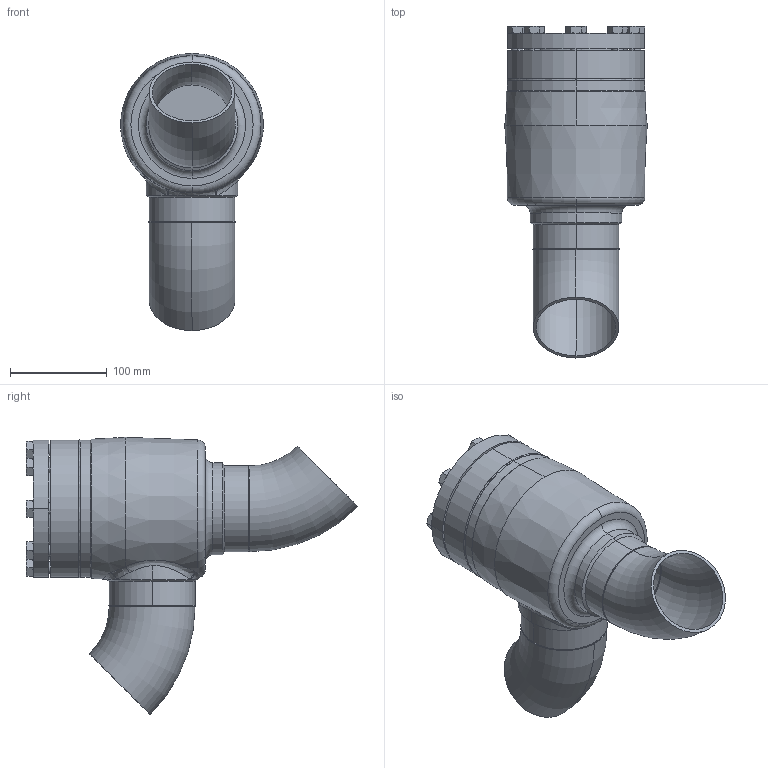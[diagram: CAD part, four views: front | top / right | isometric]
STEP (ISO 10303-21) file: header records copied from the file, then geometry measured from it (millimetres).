
FILE_DESCRIPTION (( 'STEP AP214' ), '1' );
FILE_NAME ('SS52300D18-DN080_R1_PS40.STEP', '2007-01-08T09:46:59', ( 'Herr Grams' ), ( 'AWP GmbH' ), 'SwSTEP 2.0', 'SolidWorks 2002296', '' );
FILE_SCHEMA (( 'AUTOMOTIVE_DESIGN' ));
Length unit declared in the file: millimetre
Products named in the file (12): SS52300D18-DN080_R1_PS40; SS52300E18_Deck+Schr-DN80_Standard; Deckel52300E18-DN80_Standard; Sechskantschraube-DIN933_M12x 30; Gehäuse-kpl16300-DN080_R1_Standard; Gehäuse-kpl16400-DN080_R1_Standard; Kopfstück16300-DN080_Standard; bead-DN080-1_Standard; Gehäuse16400-DN080_Standard; Rohrbogen 45°_Rohrbogen-DN080-45°; bead-DN080-2_Standard; bead-DN080-3_Standard
Assembly tree (19 placements, depth 4):
  SS52300D18-DN080_R1_PS40
    SS52300E18_Deck+Schr-DN80_Standard
      Sechskantschraube-DIN933_M12x 30  x8
      Deckel52300E18-DN80_Standard
    Gehäuse-kpl16300-DN080_R1_Standard
      Rohrbogen 45°_Rohrbogen-DN080-45°  x2
      Gehäuse-kpl16400-DN080_R1_Standard
        Gehäuse16400-DN080_Standard
        Kopfstück16300-DN080_Standard
        bead-DN080-1_Standard
      bead-DN080-2_Standard
      bead-DN080-3_Standard
Bounding box: 147.49 x 343.54 x 286.93 mm (x, y, z)
Volume: 1535381.7 mm3; surface area: 384109.2 mm2
Topology: 16 solids, 16 shells, 311 faces, 666 edges, 399 vertices
Faces by surface type: cone 123, plane 94, cylinder 62, bspline 20, torus 12
Entity records: 16167 total; most frequent: CARTESIAN_POINT 12605, DIRECTION 619, ORIENTED_EDGE 580, EDGE_CURVE 290, AXIS2_PLACEMENT_3D 278, VERTEX_POINT 181, EDGE_LOOP 165, CIRCLE 143
